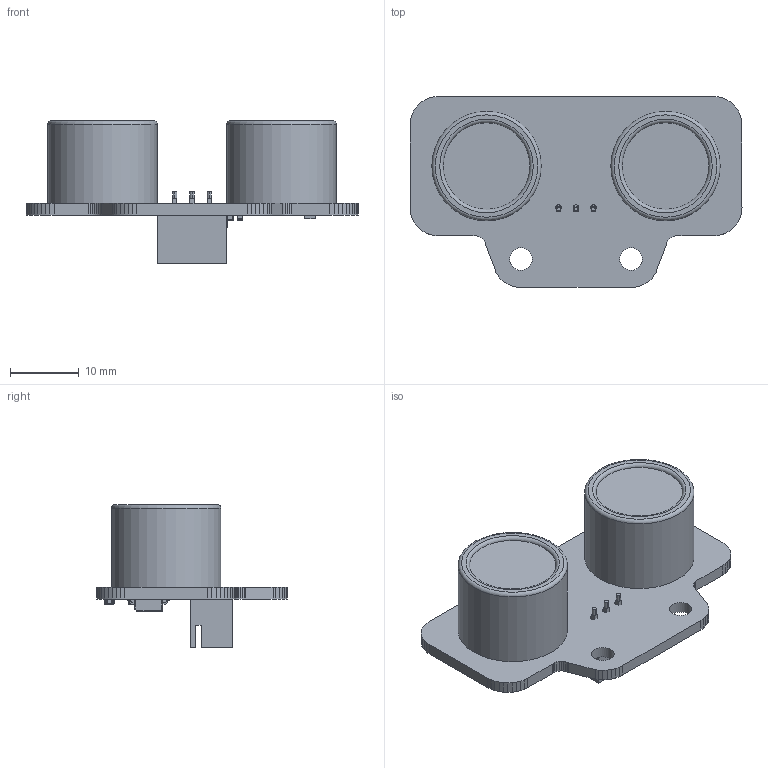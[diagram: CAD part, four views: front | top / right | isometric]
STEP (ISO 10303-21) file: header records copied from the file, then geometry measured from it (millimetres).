
FILE_DESCRIPTION(('Open CASCADE Model'),'2;1');
FILE_NAME('Open CASCADE Shape Model','2024-10-18T23:32:25',('Author'),( 'Open CASCADE'),'Open CASCADE STEP processor 6.5','Open CASCADE 6.5' ,'Unknown');
FILE_SCHEMA(('AUTOMOTIVE_DESIGN { 1 0 10303 214 1 1 1 1 }'));
Length unit declared in the file: millimetre
Products named in the file (20): PCB; Board; P1; SW3dPS-XH-A-1; Y1; User_Library-Siward_SX3215; 1198312592; Extruded; U1; SO-16; RT21; User_Library-HC-SR04_Transducer; RT11; R2; 0603_R; R1; C5; User_Library-0603(1608M)_Cap; C4; C1
Assembly tree (23 placements, depth 4):
  PCB
    Board
    P1
      SW3dPS-XH-A-1
    Y1
      User_Library-Siward_SX3215
      1198312592
        Extruded
    U1
      SO-16
    RT21
      User_Library-HC-SR04_Transducer
    RT11
      User_Library-HC-SR04_Transducer
    R2
      0603_R
    R1
      0603_R
    C5
      User_Library-0603(1608M)_Cap
    C4
      User_Library-0603(1608M)_Cap
    C1
      User_Library-0603(1608M)_Cap
Bounding box: 48.23 x 27.73 x 20.69 mm (x, y, z)
Volume: 6847.9 mm3; surface area: 5458.4 mm2
Topology: 26 solids, 26 shells, 1156 faces, 2919 edges, 1834 vertices
Faces by surface type: plane 584, bspline 270, cylinder 256, sphere 20, torus 16, extrusion 10
Full cylindrical faces by diameter (mm): 0.8 x3, 1.4 x4, 3.3 x2, 15.88 x2
Entity records: 73954 total; most frequent: CARTESIAN_POINT 28817, DIRECTION 6260, ORIENTED_EDGE 4308, PCURVE 4308, DEFINITIONAL_REPRESENTATION 4308, VECTOR 4038, LINE 4033, EDGE_CURVE 2154
